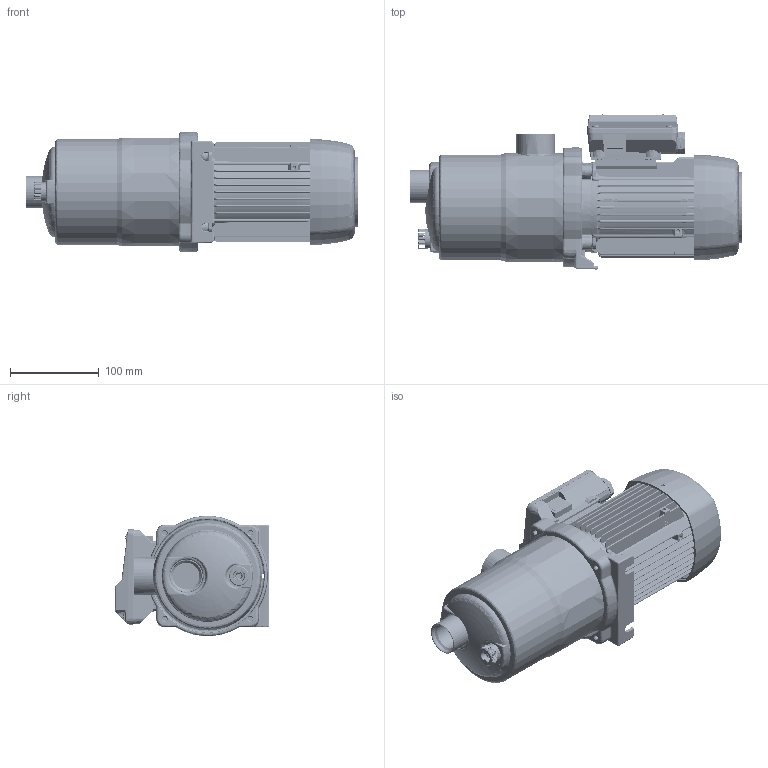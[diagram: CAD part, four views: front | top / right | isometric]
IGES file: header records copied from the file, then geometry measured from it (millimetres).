
Start section:  PTC IGES file: tecno_05_3.igs
Global section: file name: tecno_05_3.igs; native system: Pro/ENGINEER by Parametric Technology Corporation; preprocessor: 2008150; author: usuari; organization: Unknown; date: 20151111.100829; units: millimetre
Bounding box: 374.9 x 174.99 x 135.59 mm (x, y, z)
Surface area: 531071.9 mm2 (no closed solid volume)
Topology: 0 solids, 0 shells, 4035 faces, 20156 edges, 20149 vertices
Faces by surface type: bspline 2067, revolution 1968
